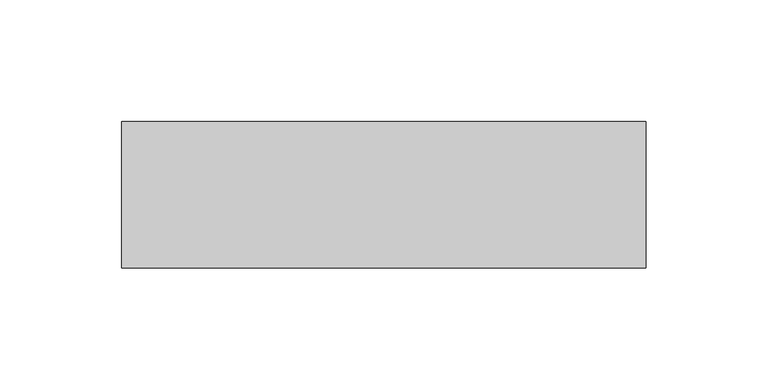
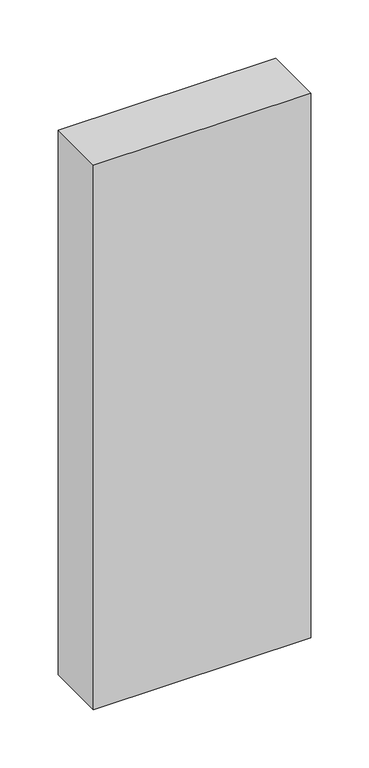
"""IFC4 building model written with IfcOpenShell, lengths in millimetres: plate geometry, Системная панель : Алюкобонд серый."""

from ifc_helpers import new_model, si_unit, origin, origin_with_axes, place, context, project, spatial, polyline, outline, extrude, source, transform, mapped, element, save


def plate_f4dbbed8(model_context):
    return source(origin(), model_context, "Body", "SweptSolid", [
        extrude(outline(polyline([(107.5, -10.5), (-107.5, -10.5), (-107.5, 49.5), (107.5, 49.5), (107.5, -10.5)])), origin_with_axes(), (0.0, 0.0, 1.0), 570.0),
    ])


if __name__ == "__main__":
    model = new_model("IFC4")
    model_context = context("Model", 3, world=origin())
    ifc_project = project(units=[si_unit("LENGTHUNIT", "METRE", prefix="MILLI")], contexts=[model_context])
    site = spatial("IfcSite", under=ifc_project)
    building = spatial("IfcBuilding", under=site)
    placement = place(None, origin())
    plate_shape = plate_f4dbbed8(model_context)
    element("IfcPlate", 1, ObjectType="Системная панель : Алюкобонд серый", at=placement, inside=building, context=model_context, shape_type="MappedRepresentation", body=[
        mapped(plate_shape, transform((0.0, 0.0, 0.0), x_axis=(1.0, 0.0, 0.0), y_axis=(0.0, 1.0, 0.0), z_axis=(0.0, 0.0, 1.0))),
    ])
    save(model, "model.ifc")
